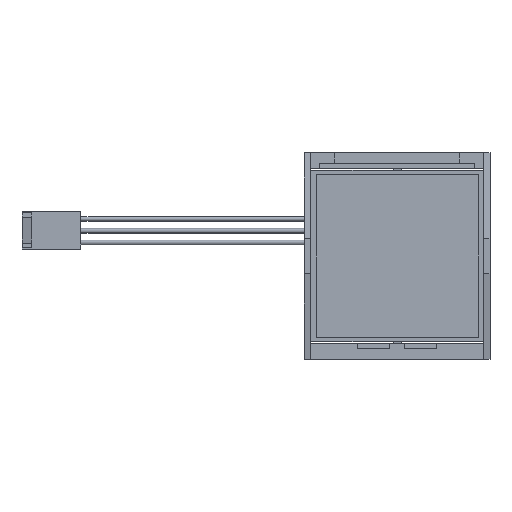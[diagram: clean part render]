
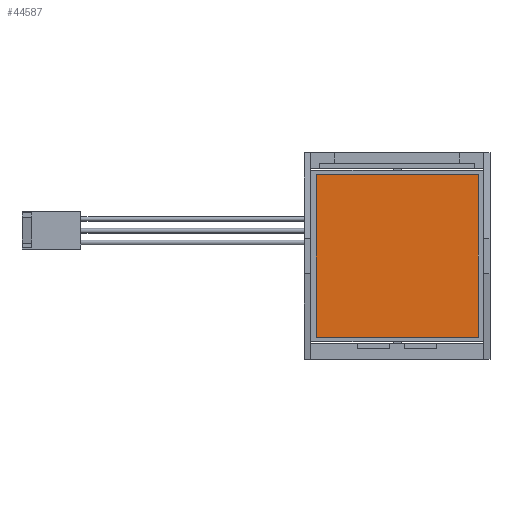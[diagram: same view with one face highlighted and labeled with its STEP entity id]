
A CAD part, front view. The second image highlights one B-rep face of the part: STEP entity #44587.
In plain terms, the highlighted planar face has unit normal (0, -1, 0).
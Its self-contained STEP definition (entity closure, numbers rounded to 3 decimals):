
#1434 = CARTESIAN_POINT ( 'NONE',  ( -25.637, -25.999, 62.305 ) ) ;
#2480 = DIRECTION ( 'NONE',  ( 0., 0., 1. ) ) ;
#6218 = LINE ( 'NONE', #23311, #10010 ) ;
#7025 = DIRECTION ( 'NONE',  ( 0., 0., 1. ) ) ;
#8376 = LINE ( 'NONE', #30784, #13917 ) ;
#9101 = EDGE_CURVE ( 'NONE', #65581, #12800, #8376, .T. ) ;
#10010 = VECTOR ( 'NONE', #44579, 1000. ) ;
#10992 = DIRECTION ( 'NONE',  ( -1., 0., 0. ) ) ;
#12389 = LINE ( 'NONE', #29093, #50689 ) ;
#12800 = VERTEX_POINT ( 'NONE', #53321 ) ;
#13917 = VECTOR ( 'NONE', #29742, 1000. ) ;
#15027 = EDGE_CURVE ( 'NONE', #35119, #26619, #12389, .T. ) ;
#15572 = CARTESIAN_POINT ( 'NONE',  ( -25.637, -25.999, 62.305 ) ) ;
#16580 = ORIENTED_EDGE ( 'NONE', *, *, #45510, .F. ) ;
#19768 = ORIENTED_EDGE ( 'NONE', *, *, #27857, .F. ) ;
#20008 = EDGE_LOOP ( 'NONE', ( #54925, #16580, #39328, #19768 ) ) ;
#23311 = CARTESIAN_POINT ( 'NONE',  ( -25.637, -25.999, 97.305 ) ) ;
#24462 = VECTOR ( 'NONE', #10992, 1000. ) ;
#26619 = VERTEX_POINT ( 'NONE', #64544 ) ;
#27857 = EDGE_CURVE ( 'NONE', #26619, #65581, #6218, .T. ) ;
#29093 = CARTESIAN_POINT ( 'NONE',  ( -25.637, -25.999, 62.305 ) ) ;
#29742 = DIRECTION ( 'NONE',  ( 0., 0., -1. ) ) ;
#30784 = CARTESIAN_POINT ( 'NONE',  ( 9.363, -25.999, 62.305 ) ) ;
#33047 = LINE ( 'NONE', #38724, #24462 ) ;
#35119 = VERTEX_POINT ( 'NONE', #15572 ) ;
#35515 = AXIS2_PLACEMENT_3D ( 'NONE', #1434, #44696, #7025 ) ;
#38724 = CARTESIAN_POINT ( 'NONE',  ( -25.637, -25.999, 62.305 ) ) ;
#39328 = ORIENTED_EDGE ( 'NONE', *, *, #9101, .F. ) ;
#44579 = DIRECTION ( 'NONE',  ( 1., 0., 0. ) ) ;
#44587 = ADVANCED_FACE ( 'NONE', ( #60345 ), #50032, .F. ) ;
#44696 = DIRECTION ( 'NONE',  ( 0., 1., 0. ) ) ;
#45510 = EDGE_CURVE ( 'NONE', #12800, #35119, #33047, .T. ) ;
#50032 = PLANE ( 'NONE',  #35515 ) ;
#50689 = VECTOR ( 'NONE', #2480, 1000. ) ;
#53321 = CARTESIAN_POINT ( 'NONE',  ( 9.363, -25.999, 62.305 ) ) ;
#54925 = ORIENTED_EDGE ( 'NONE', *, *, #15027, .F. ) ;
#60345 = FACE_OUTER_BOUND ( 'NONE', #20008, .T. ) ;
#62254 = CARTESIAN_POINT ( 'NONE',  ( 9.363, -25.999, 97.305 ) ) ;
#64544 = CARTESIAN_POINT ( 'NONE',  ( -25.637, -25.999, 97.305 ) ) ;
#65581 = VERTEX_POINT ( 'NONE', #62254 ) ;
